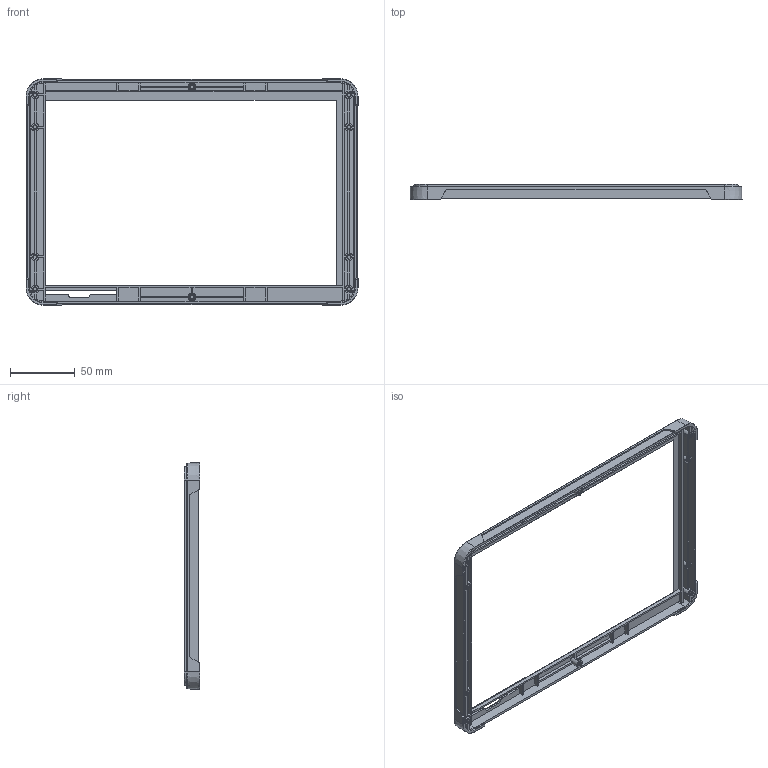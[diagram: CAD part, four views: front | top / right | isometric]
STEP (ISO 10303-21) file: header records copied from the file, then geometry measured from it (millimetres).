
FILE_DESCRIPTION((''),'2;1');
FILE_NAME('101SUJIAOKUANG','2021-03-22T09:34:27',('Administrator'),(''),'CREO PARAMETRIC BY PTC INC, 2016510','CREO PARAMETRIC BY PTC INC, 2016510','');
FILE_SCHEMA(('AUTOMOTIVE_DESIGN { 1 0 10303 214 1 1 1 1 }'));
Length unit declared in the file: millimetre
Products named in the file (1): 101SUJIAOKUANG
Bounding box: 256.11 x 12 x 174.71 mm (x, y, z)
Volume: 39536.2 mm3; surface area: 52438.6 mm2
Topology: 1 solids, 1 shells, 401 faces, 1073 edges, 690 vertices
Faces by surface type: plane 234, cylinder 103, cone 40, torus 24
Entity records: 12643 total; most frequent: CARTESIAN_POINT 2276, ORIENTED_EDGE 2146, DIRECTION 2115, EDGE_CURVE 1073, VECTOR 745, LINE 745, VERTEX_POINT 690, AXIS2_PLACEMENT_3D 685
